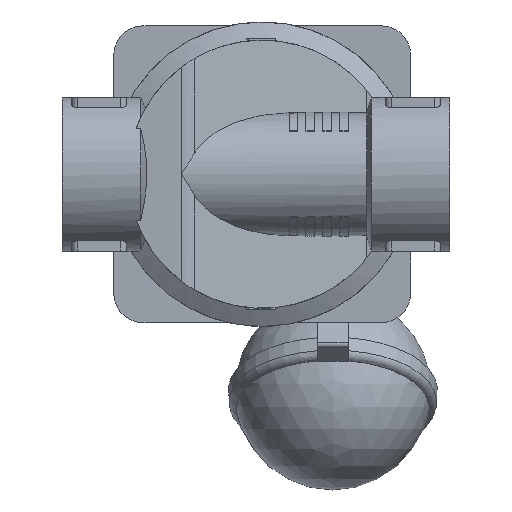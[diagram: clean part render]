
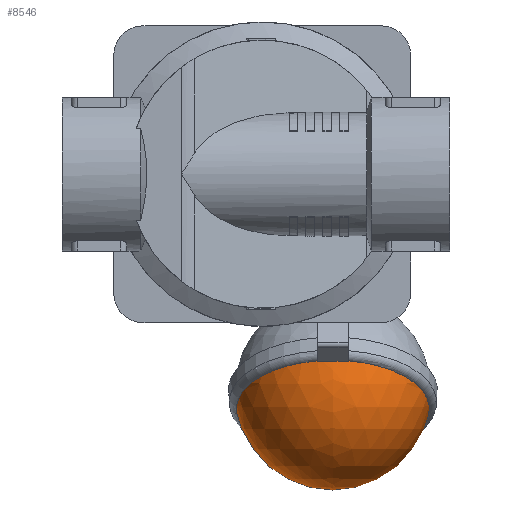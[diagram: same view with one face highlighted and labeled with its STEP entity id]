
A CAD part, front view. The second image highlights one B-rep face of the part: STEP entity #8546.
In plain terms, the highlighted spherical face has radius 32 mm.
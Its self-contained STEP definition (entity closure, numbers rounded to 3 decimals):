
#20=SPHERICAL_SURFACE('',#9199,32.);
#2901=ORIENTED_EDGE('',*,*,#4277,.F.);
#2902=ORIENTED_EDGE('',*,*,#4278,.T.);
#2903=ORIENTED_EDGE('',*,*,#4279,.T.);
#2904=ORIENTED_EDGE('',*,*,#4280,.F.);
#2905=ORIENTED_EDGE('',*,*,#4281,.F.);
#2906=ORIENTED_EDGE('',*,*,#4282,.F.);
#2907=ORIENTED_EDGE('',*,*,#4283,.T.);
#2908=ORIENTED_EDGE('',*,*,#4284,.T.);
#4277=EDGE_CURVE('',#5073,#5074,#5468,.F.);
#4278=EDGE_CURVE('',#5073,#5075,#5469,.F.);
#4279=EDGE_CURVE('',#5075,#5076,#5470,.F.);
#4280=EDGE_CURVE('',#5077,#5076,#5471,.F.);
#4281=EDGE_CURVE('',#5078,#5077,#5472,.F.);
#4282=EDGE_CURVE('',#5079,#5078,#5473,.F.);
#4283=EDGE_CURVE('',#5079,#5080,#5474,.F.);
#4284=EDGE_CURVE('',#5080,#5074,#5475,.F.);
#5073=VERTEX_POINT('',#13331);
#5074=VERTEX_POINT('',#13332);
#5075=VERTEX_POINT('',#13334);
#5076=VERTEX_POINT('',#13336);
#5077=VERTEX_POINT('',#13338);
#5078=VERTEX_POINT('',#13340);
#5079=VERTEX_POINT('',#13342);
#5080=VERTEX_POINT('',#13344);
#5468=CIRCLE('',#9200,31.368);
#5469=CIRCLE('',#9201,31.607);
#5470=CIRCLE('',#9202,31.291);
#5471=CIRCLE('',#9203,31.607);
#5472=CIRCLE('',#9204,31.368);
#5473=CIRCLE('',#9205,30.708);
#5474=CIRCLE('',#9206,30.984);
#5475=CIRCLE('',#9207,30.708);
#5870=EDGE_LOOP('',(#2901,#2902,#2903,#2904,#2905,#2906,#2907,#2908));
#6323=FACE_BOUND('',#5870,.T.);
#8546=ADVANCED_FACE('',(#6323),#20,.T.);
#9199=AXIS2_PLACEMENT_3D('',#13329,#10872,#10873);
#9200=AXIS2_PLACEMENT_3D('',#13330,#10874,#10875);
#9201=AXIS2_PLACEMENT_3D('',#13333,#10876,#10877);
#9202=AXIS2_PLACEMENT_3D('',#13335,#10878,#10879);
#9203=AXIS2_PLACEMENT_3D('',#13337,#10880,#10881);
#9204=AXIS2_PLACEMENT_3D('',#13339,#10882,#10883);
#9205=AXIS2_PLACEMENT_3D('',#13341,#10884,#10885);
#9206=AXIS2_PLACEMENT_3D('',#13343,#10886,#10887);
#9207=AXIS2_PLACEMENT_3D('',#13345,#10888,#10889);
#10872=DIRECTION('',(1.,0.,0.));
#10873=DIRECTION('',(0.,-1.,0.));
#10874=DIRECTION('',(-0.866,-0.5,0.));
#10875=DIRECTION('',(0.5,-0.866,0.));
#10876=DIRECTION('',(0.,0.,1.));
#10877=DIRECTION('',(1.,0.,0.));
#10878=DIRECTION('',(0.866,0.5,0.));
#10879=DIRECTION('',(-0.5,0.866,0.));
#10880=DIRECTION('',(0.,0.,1.));
#10881=DIRECTION('',(1.,0.,0.));
#10882=DIRECTION('',(-0.866,-0.5,0.));
#10883=DIRECTION('',(0.5,-0.866,0.));
#10884=DIRECTION('',(0.,0.,1.));
#10885=DIRECTION('',(1.,0.,0.));
#10886=DIRECTION('',(0.866,0.5,0.));
#10887=DIRECTION('',(-0.5,0.866,0.));
#10888=DIRECTION('',(0.,0.,1.));
#10889=DIRECTION('',(1.,0.,0.));
#13329=CARTESIAN_POINT('',(-70.7,0.,0.));
#13330=CARTESIAN_POINT('',(-76.183,-3.165,0.));
#13331=CARTESIAN_POINT('',(-60.699,-29.983,-5.));
#13332=CARTESIAN_POINT('',(-91.207,22.858,-9.));
#13333=CARTESIAN_POINT('',(-70.7,0.,-5.));
#13334=CARTESIAN_POINT('',(-61.058,-30.1,-5.));
#13335=CARTESIAN_POINT('',(-76.502,-3.35,0.));
#13336=CARTESIAN_POINT('',(-61.058,-30.1,5.));
#13337=CARTESIAN_POINT('',(-70.7,0.,5.));
#13338=CARTESIAN_POINT('',(-60.699,-29.983,5.));
#13339=CARTESIAN_POINT('',(-76.183,-3.165,0.));
#13340=CARTESIAN_POINT('',(-91.207,22.858,9.));
#13341=CARTESIAN_POINT('',(-70.7,0.,9.));
#13342=CARTESIAN_POINT('',(-92.452,21.676,9.));
#13343=CARTESIAN_POINT('',(-77.628,-4.,0.));
#13344=CARTESIAN_POINT('',(-92.452,21.676,-9.));
#13345=CARTESIAN_POINT('',(-70.7,0.,-9.));
